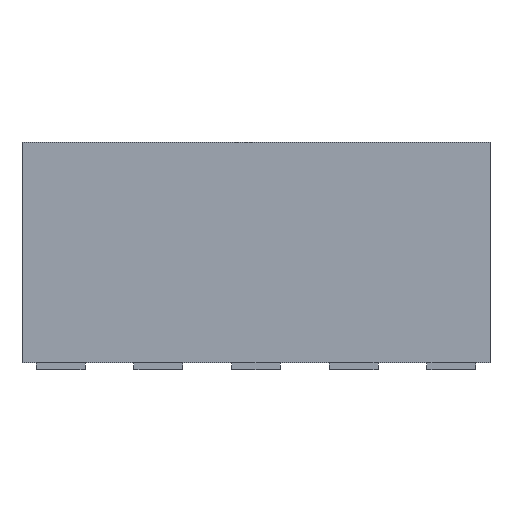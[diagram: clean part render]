
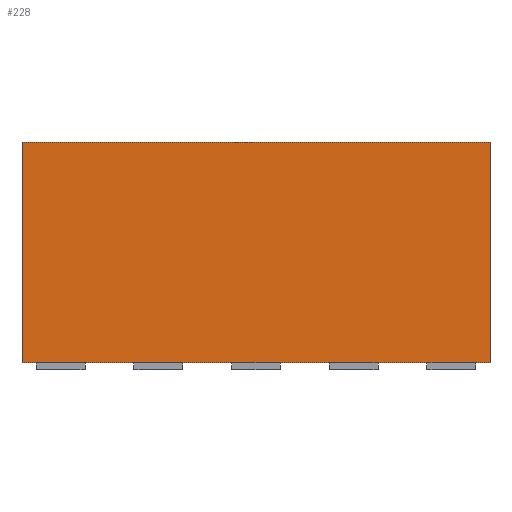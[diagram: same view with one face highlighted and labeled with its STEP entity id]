
A CAD part, front view. The second image highlights one B-rep face of the part: STEP entity #228.
In plain terms, the highlighted planar face has unit normal (0, -1, 0).
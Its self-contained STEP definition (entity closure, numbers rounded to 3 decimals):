
#59 = PLANE('',#60);
#60 = AXIS2_PLACEMENT_3D('',#61,#62,#63);
#61 = CARTESIAN_POINT('',(-3.45,-5.,0.));
#62 = DIRECTION('',(-1.,0.,0.));
#63 = DIRECTION('',(0.,1.,0.));
#87 = PLANE('',#88);
#88 = AXIS2_PLACEMENT_3D('',#89,#90,#91);
#89 = CARTESIAN_POINT('',(0.,0.,3.25));
#90 = DIRECTION('',(0.,0.,-1.));
#91 = DIRECTION('',(-1.,0.,0.));
#115 = PLANE('',#116);
#116 = AXIS2_PLACEMENT_3D('',#117,#118,#119);
#117 = CARTESIAN_POINT('',(3.45,5.,0.));
#118 = DIRECTION('',(1.,0.,-0.));
#119 = DIRECTION('',(0.,-1.,0.));
#141 = PLANE('',#142);
#142 = AXIS2_PLACEMENT_3D('',#143,#144,#145);
#143 = CARTESIAN_POINT('',(0.,0.,0.));
#144 = DIRECTION('',(0.,0.,-1.));
#145 = DIRECTION('',(-1.,0.,0.));
#158 = VERTEX_POINT('',#159);
#159 = CARTESIAN_POINT('',(3.45,-5.,3.25));
#180 = EDGE_CURVE('',#181,#158,#183,.T.);
#181 = VERTEX_POINT('',#182);
#182 = CARTESIAN_POINT('',(3.45,-5.,0.));
#183 = SURFACE_CURVE('',#184,(#188,#195),.PCURVE_S1.);
#184 = LINE('',#185,#186);
#185 = CARTESIAN_POINT('',(3.45,-5.,0.));
#186 = VECTOR('',#187,1.);
#187 = DIRECTION('',(0.,0.,1.));
#188 = PCURVE('',#115,#189);
#189 = DEFINITIONAL_REPRESENTATION('',(#190),#194);
#190 = LINE('',#191,#192);
#191 = CARTESIAN_POINT('',(10.,0.));
#192 = VECTOR('',#193,1.);
#193 = DIRECTION('',(0.,-1.));
#194 = ( GEOMETRIC_REPRESENTATION_CONTEXT(2) 
PARAMETRIC_REPRESENTATION_CONTEXT() REPRESENTATION_CONTEXT('2D SPACE',''
  ) );
#195 = PCURVE('',#196,#201);
#196 = PLANE('',#197);
#197 = AXIS2_PLACEMENT_3D('',#198,#199,#200);
#198 = CARTESIAN_POINT('',(3.45,-5.,0.));
#199 = DIRECTION('',(0.,-1.,0.));
#200 = DIRECTION('',(-1.,0.,0.));
#201 = DEFINITIONAL_REPRESENTATION('',(#202),#206);
#202 = LINE('',#203,#204);
#203 = CARTESIAN_POINT('',(0.,-0.));
#204 = VECTOR('',#205,1.);
#205 = DIRECTION('',(0.,-1.));
#206 = ( GEOMETRIC_REPRESENTATION_CONTEXT(2) 
PARAMETRIC_REPRESENTATION_CONTEXT() REPRESENTATION_CONTEXT('2D SPACE',''
  ) );
#228 = ADVANCED_FACE('',(#229),#196,.T.);
#229 = FACE_BOUND('',#230,.T.);
#230 = EDGE_LOOP('',(#231,#232,#255,#278));
#231 = ORIENTED_EDGE('',*,*,#180,.T.);
#232 = ORIENTED_EDGE('',*,*,#233,.T.);
#233 = EDGE_CURVE('',#158,#234,#236,.T.);
#234 = VERTEX_POINT('',#235);
#235 = CARTESIAN_POINT('',(-3.45,-5.,3.25));
#236 = SURFACE_CURVE('',#237,(#241,#248),.PCURVE_S1.);
#237 = LINE('',#238,#239);
#238 = CARTESIAN_POINT('',(3.45,-5.,3.25));
#239 = VECTOR('',#240,1.);
#240 = DIRECTION('',(-1.,0.,0.));
#241 = PCURVE('',#196,#242);
#242 = DEFINITIONAL_REPRESENTATION('',(#243),#247);
#243 = LINE('',#244,#245);
#244 = CARTESIAN_POINT('',(0.,-3.25));
#245 = VECTOR('',#246,1.);
#246 = DIRECTION('',(1.,0.));
#247 = ( GEOMETRIC_REPRESENTATION_CONTEXT(2) 
PARAMETRIC_REPRESENTATION_CONTEXT() REPRESENTATION_CONTEXT('2D SPACE',''
  ) );
#248 = PCURVE('',#87,#249);
#249 = DEFINITIONAL_REPRESENTATION('',(#250),#254);
#250 = LINE('',#251,#252);
#251 = CARTESIAN_POINT('',(-3.45,-5.));
#252 = VECTOR('',#253,1.);
#253 = DIRECTION('',(1.,0.));
#254 = ( GEOMETRIC_REPRESENTATION_CONTEXT(2) 
PARAMETRIC_REPRESENTATION_CONTEXT() REPRESENTATION_CONTEXT('2D SPACE',''
  ) );
#255 = ORIENTED_EDGE('',*,*,#256,.F.);
#256 = EDGE_CURVE('',#257,#234,#259,.T.);
#257 = VERTEX_POINT('',#258);
#258 = CARTESIAN_POINT('',(-3.45,-5.,0.));
#259 = SURFACE_CURVE('',#260,(#264,#271),.PCURVE_S1.);
#260 = LINE('',#261,#262);
#261 = CARTESIAN_POINT('',(-3.45,-5.,0.));
#262 = VECTOR('',#263,1.);
#263 = DIRECTION('',(0.,0.,1.));
#264 = PCURVE('',#196,#265);
#265 = DEFINITIONAL_REPRESENTATION('',(#266),#270);
#266 = LINE('',#267,#268);
#267 = CARTESIAN_POINT('',(6.9,0.));
#268 = VECTOR('',#269,1.);
#269 = DIRECTION('',(0.,-1.));
#270 = ( GEOMETRIC_REPRESENTATION_CONTEXT(2) 
PARAMETRIC_REPRESENTATION_CONTEXT() REPRESENTATION_CONTEXT('2D SPACE',''
  ) );
#271 = PCURVE('',#59,#272);
#272 = DEFINITIONAL_REPRESENTATION('',(#273),#277);
#273 = LINE('',#274,#275);
#274 = CARTESIAN_POINT('',(0.,0.));
#275 = VECTOR('',#276,1.);
#276 = DIRECTION('',(0.,-1.));
#277 = ( GEOMETRIC_REPRESENTATION_CONTEXT(2) 
PARAMETRIC_REPRESENTATION_CONTEXT() REPRESENTATION_CONTEXT('2D SPACE',''
  ) );
#278 = ORIENTED_EDGE('',*,*,#279,.F.);
#279 = EDGE_CURVE('',#181,#257,#280,.T.);
#280 = SURFACE_CURVE('',#281,(#285,#292),.PCURVE_S1.);
#281 = LINE('',#282,#283);
#282 = CARTESIAN_POINT('',(3.45,-5.,0.));
#283 = VECTOR('',#284,1.);
#284 = DIRECTION('',(-1.,0.,0.));
#285 = PCURVE('',#196,#286);
#286 = DEFINITIONAL_REPRESENTATION('',(#287),#291);
#287 = LINE('',#288,#289);
#288 = CARTESIAN_POINT('',(0.,-0.));
#289 = VECTOR('',#290,1.);
#290 = DIRECTION('',(1.,0.));
#291 = ( GEOMETRIC_REPRESENTATION_CONTEXT(2) 
PARAMETRIC_REPRESENTATION_CONTEXT() REPRESENTATION_CONTEXT('2D SPACE',''
  ) );
#292 = PCURVE('',#141,#293);
#293 = DEFINITIONAL_REPRESENTATION('',(#294),#298);
#294 = LINE('',#295,#296);
#295 = CARTESIAN_POINT('',(-3.45,-5.));
#296 = VECTOR('',#297,1.);
#297 = DIRECTION('',(1.,0.));
#298 = ( GEOMETRIC_REPRESENTATION_CONTEXT(2) 
PARAMETRIC_REPRESENTATION_CONTEXT() REPRESENTATION_CONTEXT('2D SPACE',''
  ) );
